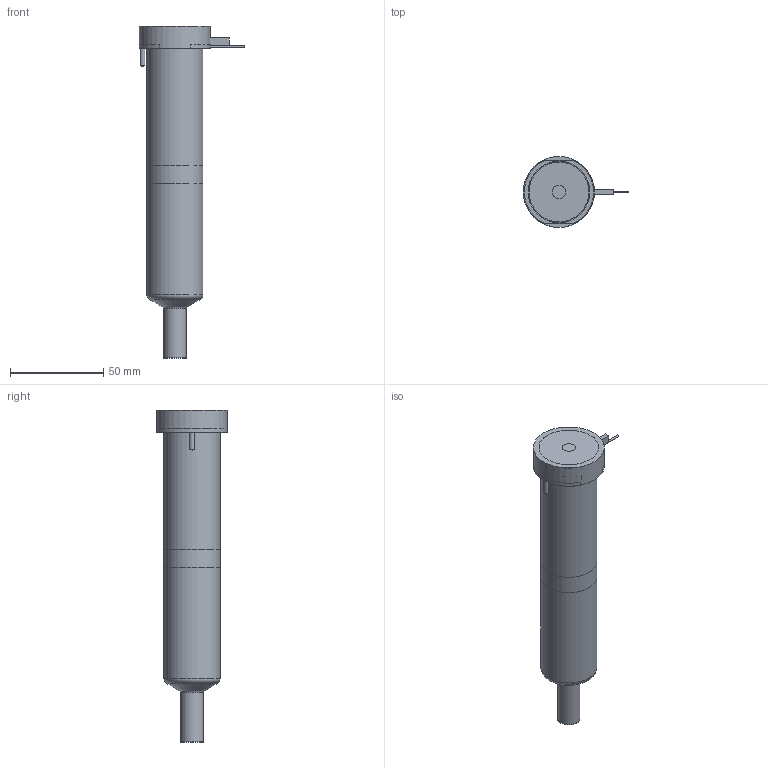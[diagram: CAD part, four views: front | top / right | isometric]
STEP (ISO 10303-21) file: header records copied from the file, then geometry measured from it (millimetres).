
FILE_DESCRIPTION(/* description */ (''),/* implementation_level */ '2;1');
FILE_NAME(/* name */ 'BXTSX-BXISX-BXOSX16145_200C_b',/* time_stamp */ '2008-04-29T14:06:42+12:00',/* author */ (''),/* organization */ (''),/* preprocessor_version */ 'ST-DEVELOPER v9',/* originating_system */ 'UGS - NX 4.0',/* authorisation */ '');
FILE_SCHEMA (('CONFIG_CONTROL_DESIGN'));
Length unit declared in the file: millimetre
Products named in the file (1): BXTSX-BXISX-BXOSX16145_200C_b
Bounding box: 56.25 x 38 x 177.64 mm (x, y, z)
Volume: 203763.6 mm3; surface area: 36521.6 mm2
Topology: 6 solids, 6 shells, 74 faces, 147 edges, 95 vertices
Faces by surface type: plane 35, cylinder 23, cone 8, torus 7, bspline 1
Full cylindrical faces by diameter (mm): 1 x4, 2.5 x2, 7 x1, 11.61 x1, 12.01 x2, 14.8 x1, 25.4 x1, 30 x2, 38 x1
Entity records: 1852 total; most frequent: CARTESIAN_POINT 368, DIRECTION 310, ORIENTED_EDGE 220, AXIS2_PLACEMENT_3D 136, EDGE_LOOP 112, EDGE_CURVE 110, VERTEX_POINT 87, ADVANCED_FACE 74
